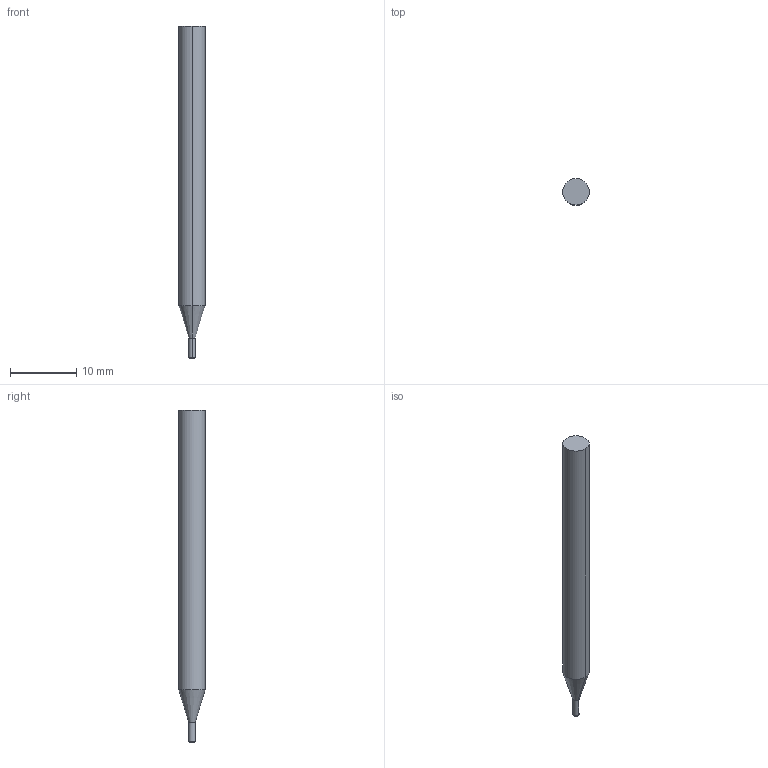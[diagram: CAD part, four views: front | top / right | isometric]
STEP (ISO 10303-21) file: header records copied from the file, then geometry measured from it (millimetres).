
FILE_DESCRIPTION((' '),'2;1');
FILE_NAME( '3MVRM0100R.10AH.stp', '2026-01-21T19:05:58', (' '), ('--- Datakit www.datakit.com---'), ' Datakit CrossCadWare V2025.4 Sep 19 2025', 'Mastercam 2027', ' ');
FILE_SCHEMA(('AUTOMOTIVE_DESIGN { 1 0 10303 214 1 1 1 1 }'));
Length unit declared in the file: inch
Products named in the file (1): 3MVRM0100R
Bounding box: 4 x 4 x 50 mm (x, y, z)
Volume: 558.4 mm3; surface area: 592 mm2
Topology: 1 solids, 1 shells, 10 faces, 18 edges, 10 vertices
Faces by surface type: cylinder 4, plane 2, torus 2, cone 2
Entity records: 318 total; most frequent: DIRECTION 60, CARTESIAN_POINT 43, ORIENTED_EDGE 36, AXIS2_PLACEMENT_3D 27, EDGE_CURVE 18, CIRCLE 12, VERTEX_POINT 10, EDGE_LOOP 10
